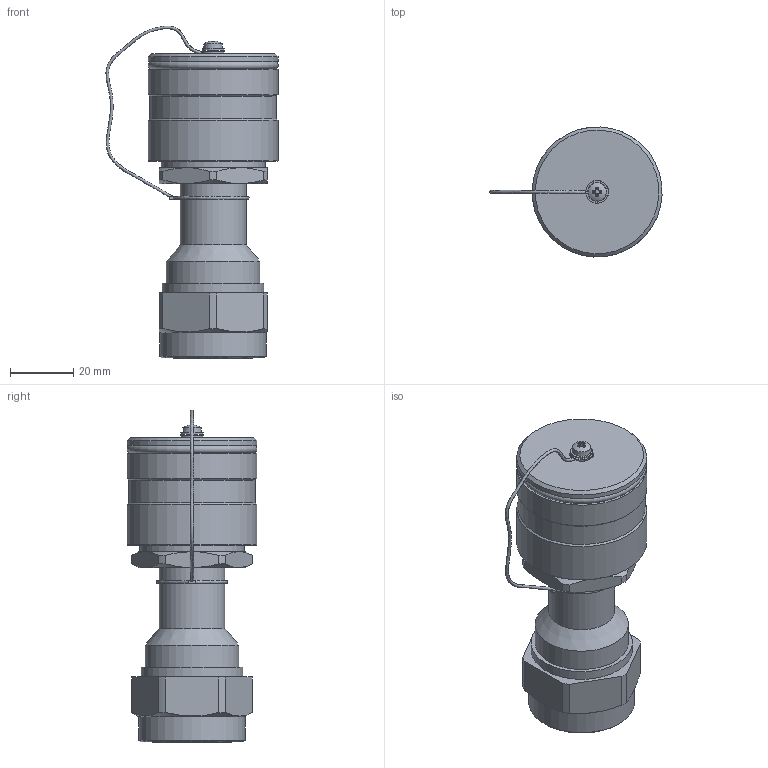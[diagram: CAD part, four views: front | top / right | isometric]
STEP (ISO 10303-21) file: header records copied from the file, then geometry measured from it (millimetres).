
FILE_DESCRIPTION((''),'2;1');
FILE_NAME('C:\Users\A.V.Nesterov\Desktop\111\3D\ТЗ\ТЗ 112955\РГМК-24DC-9-Н_М3_3D.stp','2024-10-17T20:53:02',('A.V.Nesterov'),(''),'Autodesk Inventor 2012','Autodesk Inventor 2012','');
FILE_SCHEMA(('AUTOMOTIVE_DESIGN { 1 0 10303 214 1 1 1 1 }'));
Length unit declared in the file: millimetre
Products named in the file (1): РГМК-24DC-9-Н_М3_3D
Bounding box: 54.27 x 40.95 x 104.68 mm (x, y, z)
Surface area: 42079.1 mm2 (no closed solid volume)
Topology: 0 solids, 13 shells, 1269 faces, 3398 edges, 2230 vertices
Faces by surface type: plane 955, cylinder 184, cone 82, torus 36, sphere 10, bspline 2
Full cylindrical faces by diameter (mm): 1.1 x8, 1.2 x8, 1.5 x1, 2 x8, 2.1 x9, 2.459 x1, 2.7 x8, 2.75 x1, 3 x2, 3.1 x1, 3.2 x1, 3.5 x3, 4.1 x1, 7 x3, 10 x1, 12 x1, 15.1 x1, 15.6 x1, 16.3 x1, 17.1 x1, 17.609 x1, 18 x3, 19 x1, 20 x1, 20.8 x1, 21 x1, 22.5 x1, 24.8 x1, 25 x1, 26.5 x1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
Entity records: 39262 total; most frequent: CARTESIAN_POINT 7857, ORIENTED_EDGE 6386, DIRECTION 6180, EDGE_CURVE 3193, VECTOR 2508, LINE 2508, VERTEX_POINT 2185, AXIS2_PLACEMENT_3D 1836
